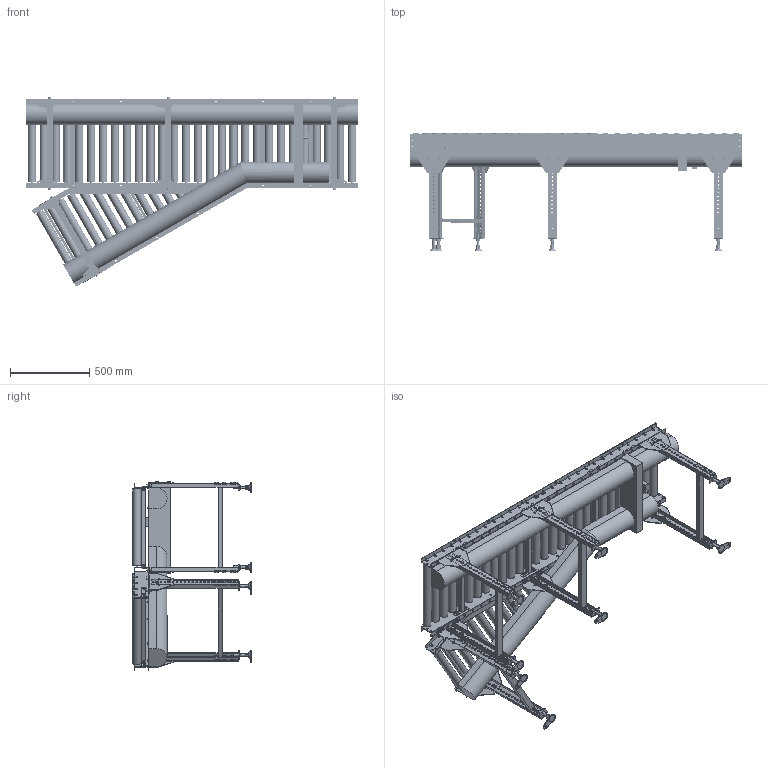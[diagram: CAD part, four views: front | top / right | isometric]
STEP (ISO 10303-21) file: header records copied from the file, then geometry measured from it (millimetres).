
FILE_DESCRIPTION( (''), '2;1');
FILE_NAME ('WEB-MCD-50-500-75-210-L-J30.stp','2025-07-01T15:49:59',(''),(''),'spGate 20.6.2 (****-****-****-****)','','');
FILE_SCHEMA (('AUTOMOTIVE_DESIGN'));
Length unit declared in the file: millimetre
Products named in the file (67): WEB-MCD-50-500-75-210-L-J30; TEMP_X_T-prt0; TEMP_X_T-prt1; TEMP_X_T-prt2; TEMP_X_T-prt3; TEMP_X_T-prt4; TEMP_X_T-prt5; TEMP_X_T-prt6; TEMP_X_T-prt7; TEMP_X_T-prt8; TEMP_X_T-prt9; TEMP_X_T-prt10; TEMP_X_T-prt11; TEMP_X_T-prt12; TEMP_X_T-prt13; TEMP_X_T-prt14; TEMP_X_T-prt15; TEMP_X_T-prt16; TEMP_X_T-prt17; TEMP_X_T-prt18; TEMP_X_T-prt19; TEMP_X_T-prt20; TEMP_X_T-prt21; TEMP_X_T-prt22; TEMP_X_T-prt23; TEMP_X_T-prt24; TEMP_X_T-prt25; TEMP_X_T-prt26; TEMP_X_T-prt27; TEMP_X_T-prt28; TEMP_X_T-prt29; TEMP_X_T-prt30; TEMP_X_T-prt31; TEMP_X_T-prt32; TEMP_X_T-prt33; TEMP_X_T-prt34; TEMP_X_T-prt35; TEMP_X_T-prt36; TEMP_X_T-prt37; TEMP_X_T-prt38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
Assembly tree (66 placements, depth 2):
  WEB-MCD-50-500-75-210-L-J30
    TEMP_X_T-prt0
    TEMP_X_T-prt1
    TEMP_X_T-prt2
    TEMP_X_T-prt3
    TEMP_X_T-prt4
    TEMP_X_T-prt5
    TEMP_X_T-prt6
    TEMP_X_T-prt7
    TEMP_X_T-prt8
    TEMP_X_T-prt9
    TEMP_X_T-prt10
    TEMP_X_T-prt11
    TEMP_X_T-prt12
    TEMP_X_T-prt13
    TEMP_X_T-prt14
    TEMP_X_T-prt15
    TEMP_X_T-prt16
    TEMP_X_T-prt17
    TEMP_X_T-prt18
    TEMP_X_T-prt19
    TEMP_X_T-prt20
    TEMP_X_T-prt21
    TEMP_X_T-prt22
    TEMP_X_T-prt23
    TEMP_X_T-prt24
    TEMP_X_T-prt25
    TEMP_X_T-prt26
    TEMP_X_T-prt27
    TEMP_X_T-prt28
    TEMP_X_T-prt29
    TEMP_X_T-prt30
    TEMP_X_T-prt31
    TEMP_X_T-prt32
    TEMP_X_T-prt33
    TEMP_X_T-prt34
    TEMP_X_T-prt35
    TEMP_X_T-prt36
    TEMP_X_T-prt37
    TEMP_X_T-prt38
    TEMP_X_T-prt39
    TEMP_X_T-prt40
    TEMP_X_T-prt41
    TEMP_X_T-prt42
    TEMP_X_T-prt43
    TEMP_X_T-prt44
    TEMP_X_T-prt45
    TEMP_X_T-prt46
    TEMP_X_T-prt47
    TEMP_X_T-prt48
    TEMP_X_T-prt49
    TEMP_X_T-prt50
    TEMP_X_T-prt51
    TEMP_X_T-prt52
    TEMP_X_T-prt53
    TEMP_X_T-prt54
    TEMP_X_T-prt55
    TEMP_X_T-prt56
    TEMP_X_T-prt57
    TEMP_X_T-prt58
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Bounding box: 2100 x 750 x 1198.19 mm (x, y, z)
Volume: 104488793.4 mm3; surface area: 9155451.1 mm2
Topology: 66 solids, 106 shells, 4255 faces, 11409 edges, 7511 vertices
Faces by surface type: plane 3376, cylinder 871, bspline 8
Full cylindrical faces by diameter (mm): 9 x13, 10 x104, 10.5 x184, 11 x81, 12 x75, 13 x24, 16 x8, 18.4 x48, 18.5 x16, 21 x24, 50.8 x42
Entity records: 227523 total; most frequent: CARTESIAN_POINT 25088, DIRECTION 23021, ORIENTED_EDGE 22818, COLOUR_RGB 15730, PRESENTATION_STYLE_ASSIGNMENT 15730, STYLED_ITEM 15730, EDGE_CURVE 11409, DRAUGHTING_PRE_DEFINED_CURVE_FONT 11409
